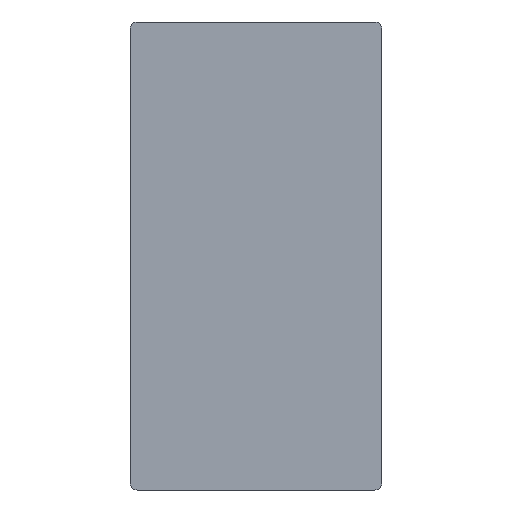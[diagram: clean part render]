
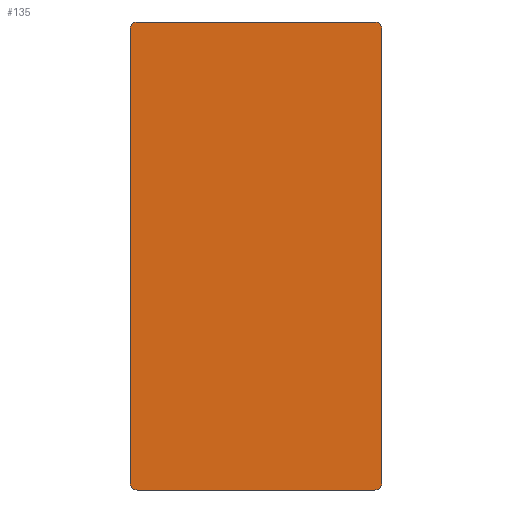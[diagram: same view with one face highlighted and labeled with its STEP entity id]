
A CAD part, front view. The second image highlights one B-rep face of the part: STEP entity #135.
In plain terms, the highlighted planar face has unit normal (0, -1, 0).
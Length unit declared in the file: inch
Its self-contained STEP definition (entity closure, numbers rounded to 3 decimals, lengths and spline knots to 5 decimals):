
#96 = VERTEX_POINT ( 'NONE', #359 ) ;
#102 = VERTEX_POINT ( 'NONE', #470 ) ;
#109 = ORIENTED_EDGE ( 'NONE', *, *, #125, .F. ) ;
#110 = ORIENTED_EDGE ( 'NONE', *, *, #246, .F. ) ;
#112 = ORIENTED_EDGE ( 'NONE', *, *, #167, .F. ) ;
#113 = ORIENTED_EDGE ( 'NONE', *, *, #289, .F. ) ;
#122 = EDGE_CURVE ( 'NONE', #96, #102, #523, .T. ) ;
#125 = EDGE_CURVE ( 'NONE', #102, #302, #515, .T. ) ;
#132 = VERTEX_POINT ( 'NONE', #533 ) ;
#133 = VERTEX_POINT ( 'NONE', #447 ) ;
#135 = ADVANCED_FACE ( 'NONE', ( #438 ), #446, .T. ) ;
#136 = ORIENTED_EDGE ( 'NONE', *, *, #311, .F. ) ;
#137 = EDGE_CURVE ( 'NONE', #302, #132, #436, .T. ) ;
#141 = VERTEX_POINT ( 'NONE', #448 ) ;
#143 = VERTEX_POINT ( 'NONE', #326 ) ;
#167 = EDGE_CURVE ( 'NONE', #168, #133, #384, .T. ) ;
#168 = VERTEX_POINT ( 'NONE', #414 ) ;
#172 = EDGE_LOOP ( 'NONE', ( #109, #295, #136, #112, #207, #113, #110, #314 ) ) ;
#207 = ORIENTED_EDGE ( 'NONE', *, *, #293, .F. ) ;
#246 = EDGE_CURVE ( 'NONE', #132, #143, #612, .T. ) ;
#289 = EDGE_CURVE ( 'NONE', #143, #141, #785, .T. ) ;
#293 = EDGE_CURVE ( 'NONE', #141, #168, #768, .T. ) ;
#295 = ORIENTED_EDGE ( 'NONE', *, *, #122, .F. ) ;
#302 = VERTEX_POINT ( 'NONE', #737 ) ;
#311 = EDGE_CURVE ( 'NONE', #133, #96, #756, .T. ) ;
#314 = ORIENTED_EDGE ( 'NONE', *, *, #137, .F. ) ;
#326 = CARTESIAN_POINT ( 'NONE',  ( -1.085, -0.07, -1.9545 ) ) ;
#331 = DIRECTION ( 'NONE',  ( -1., 0., 0. ) ) ;
#332 = VECTOR ( 'NONE', #331, 39.37008 ) ;
#333 = CARTESIAN_POINT ( 'NONE',  ( -1.022, -0.07, -2.0175 ) ) ;
#359 = CARTESIAN_POINT ( 'NONE',  ( 1.085, -0.07, 1.9545 ) ) ;
#384 = LINE ( 'NONE', #412, #416 ) ;
#389 = DIRECTION ( 'NONE',  ( 1., 0., 0. ) ) ;
#412 = CARTESIAN_POINT ( 'NONE',  ( -1.022, -0.07, 2.0175 ) ) ;
#414 = CARTESIAN_POINT ( 'NONE',  ( -1.022, -0.07, 2.0175 ) ) ;
#416 = VECTOR ( 'NONE', #389, 39.37008 ) ;
#435 = DIRECTION ( 'NONE',  ( 0., 0., -1. ) ) ;
#436 = LINE ( 'NONE', #333, #332 ) ;
#437 = CARTESIAN_POINT ( 'NONE',  ( 1.022, -0.07, -1.9545 ) ) ;
#438 = FACE_OUTER_BOUND ( 'NONE', #172, .T. ) ;
#443 = DIRECTION ( 'NONE',  ( 0., -1., 0. ) ) ;
#446 = PLANE ( 'NONE',  #512 ) ;
#447 = CARTESIAN_POINT ( 'NONE',  ( 1.022, -0.07, 2.0175 ) ) ;
#448 = CARTESIAN_POINT ( 'NONE',  ( -1.085, -0.07, 1.9545 ) ) ;
#470 = CARTESIAN_POINT ( 'NONE',  ( 1.085, -0.07, -1.9545 ) ) ;
#509 = DIRECTION ( 'NONE',  ( 0., 0., -1. ) ) ;
#510 = DIRECTION ( 'NONE',  ( 0., 1., 0. ) ) ;
#511 = CARTESIAN_POINT ( 'NONE',  ( 1.022, -0.07, -1.9545 ) ) ;
#512 = AXIS2_PLACEMENT_3D ( 'NONE', #437, #443, #435 ) ;
#515 = CIRCLE ( 'NONE', #527, 0.063 ) ;
#516 = DIRECTION ( 'NONE',  ( 0., 0., -1. ) ) ;
#517 = VECTOR ( 'NONE', #516, 39.37008 ) ;
#522 = CARTESIAN_POINT ( 'NONE',  ( 1.085, -0.07, -1.9545 ) ) ;
#523 = LINE ( 'NONE', #522, #517 ) ;
#527 = AXIS2_PLACEMENT_3D ( 'NONE', #511, #510, #509 ) ;
#533 = CARTESIAN_POINT ( 'NONE',  ( -1.022, -0.07, -2.0175 ) ) ;
#612 = CIRCLE ( 'NONE', #694, 0.063 ) ;
#694 = AXIS2_PLACEMENT_3D ( 'NONE', #732, #730, #729 ) ;
#729 = DIRECTION ( 'NONE',  ( 0., 0., -1. ) ) ;
#730 = DIRECTION ( 'NONE',  ( 0., 1., 0. ) ) ;
#732 = CARTESIAN_POINT ( 'NONE',  ( -1.022, -0.07, -1.9545 ) ) ;
#737 = CARTESIAN_POINT ( 'NONE',  ( 1.022, -0.07, -2.0175 ) ) ;
#752 = CARTESIAN_POINT ( 'NONE',  ( 1.022, -0.07, 1.9545 ) ) ;
#753 = AXIS2_PLACEMENT_3D ( 'NONE', #752, #780, #779 ) ;
#754 = CARTESIAN_POINT ( 'NONE',  ( -1.022, -0.07, 1.9545 ) ) ;
#756 = CIRCLE ( 'NONE', #753, 0.063 ) ;
#761 = AXIS2_PLACEMENT_3D ( 'NONE', #754, #831, #787 ) ;
#765 = DIRECTION ( 'NONE',  ( 0., 0., 1. ) ) ;
#766 = VECTOR ( 'NONE', #765, 39.37008 ) ;
#767 = CARTESIAN_POINT ( 'NONE',  ( -1.085, -0.07, -1.9545 ) ) ;
#768 = CIRCLE ( 'NONE', #761, 0.063 ) ;
#779 = DIRECTION ( 'NONE',  ( 0., 0., 1. ) ) ;
#780 = DIRECTION ( 'NONE',  ( 0., 1., 0. ) ) ;
#785 = LINE ( 'NONE', #767, #766 ) ;
#787 = DIRECTION ( 'NONE',  ( 0., 0., 1. ) ) ;
#831 = DIRECTION ( 'NONE',  ( 0., 1., 0. ) ) ;
